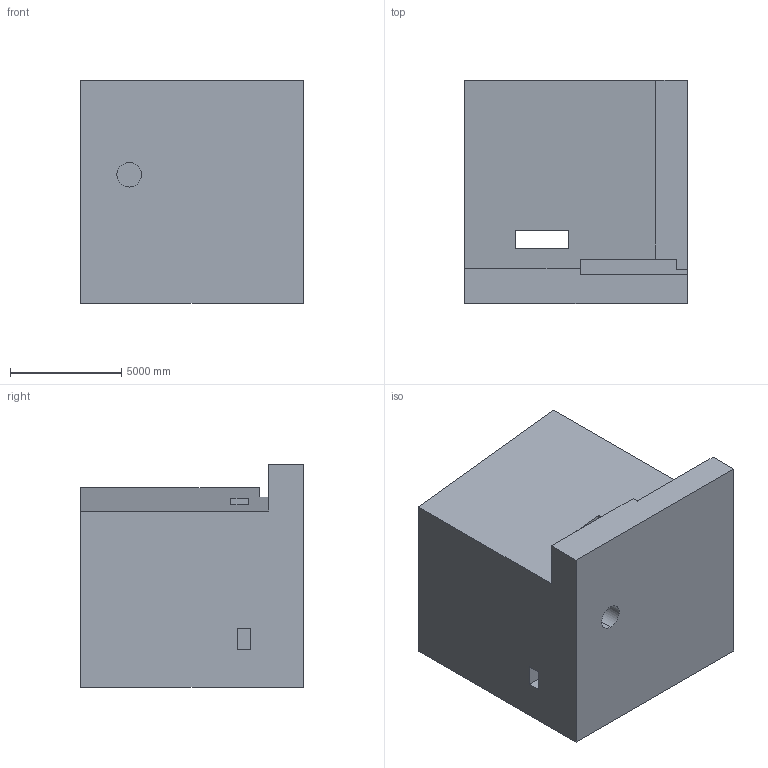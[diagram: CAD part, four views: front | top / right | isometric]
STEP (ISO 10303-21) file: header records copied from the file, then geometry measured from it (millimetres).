
FILE_DESCRIPTION (( 'STEP AP203' ), '1' );
FILE_NAME ('66.STEP', '2022-09-02T13:58:05', ( 'user' ), ( '' ), 'SwSTEP 2.0', 'SolidWorks 2021', '' );
FILE_SCHEMA (( 'CONFIG_CONTROL_DESIGN' ));
Length unit declared in the file: centimetre
Products named in the file (1): 66
Bounding box: 10000 x 10000 x 10000 mm (x, y, z)
Volume: 824811439269.6 mm3; surface area: 667014706.9 mm2
Topology: 1 solids, 1 shells, 35 faces, 96 edges, 64 vertices
Faces by surface type: plane 33, cylinder 2
Entity records: 1179 total; most frequent: CARTESIAN_POINT 196, ORIENTED_EDGE 192, DIRECTION 172, EDGE_CURVE 96, LINE 92, VECTOR 92, VERTEX_POINT 64, AXIS2_PLACEMENT_3D 40
